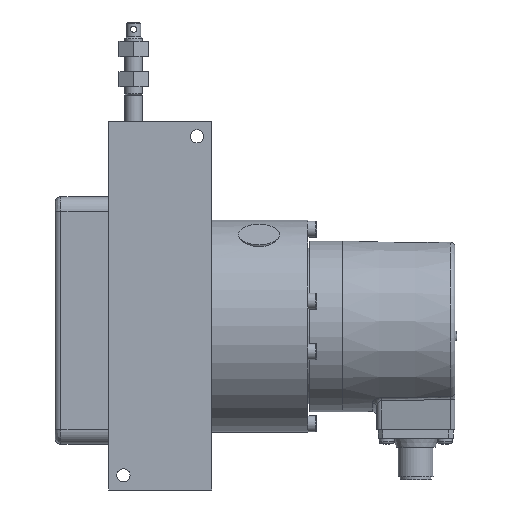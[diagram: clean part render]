
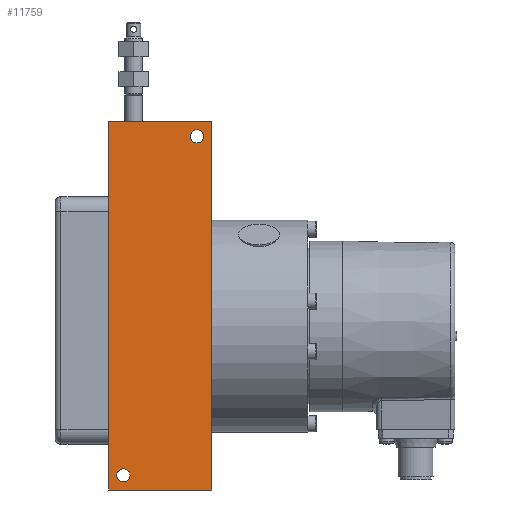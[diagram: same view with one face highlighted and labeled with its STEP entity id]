
A CAD part, front view. The second image highlights one B-rep face of the part: STEP entity #11759.
In plain terms, the highlighted planar face has unit normal (0, -1, 0).
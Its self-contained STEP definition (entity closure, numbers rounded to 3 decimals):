
#941 = VERTEX_POINT ( 'NONE', #12660 ) ;
#1302 = CIRCLE ( 'NONE', #11133, 2.25 ) ;
#1304 = EDGE_LOOP ( 'NONE', ( #10239, #13499, #15454, #16275 ) ) ;
#1880 = VERTEX_POINT ( 'NONE', #4811 ) ;
#2506 = VECTOR ( 'NONE', #6779, 1000. ) ;
#2808 = VERTEX_POINT ( 'NONE', #8015 ) ;
#3413 = CARTESIAN_POINT ( 'NONE',  ( 48.2, -45., 64.5 ) ) ;
#3589 = LINE ( 'NONE', #16654, #14209 ) ;
#3617 = VECTOR ( 'NONE', #5483, 1000. ) ;
#3825 = ORIENTED_EDGE ( 'NONE', *, *, #5727, .F. ) ;
#3887 = VECTOR ( 'NONE', #8641, 1000. ) ;
#3888 = DIRECTION ( 'NONE',  ( 0., -1., 0. ) ) ;
#4045 = LINE ( 'NONE', #12442, #3617 ) ;
#4217 = AXIS2_PLACEMENT_3D ( 'NONE', #15537, #14185, #5891 ) ;
#4476 = PLANE ( 'NONE',  #4217 ) ;
#4811 = CARTESIAN_POINT ( 'NONE',  ( 18.2, -45., 69.5 ) ) ;
#4819 = DIRECTION ( 'NONE',  ( -1., 0., 0. ) ) ;
#5483 = DIRECTION ( 'NONE',  ( 1., 0., 0. ) ) ;
#5727 = EDGE_CURVE ( 'NONE', #14484, #14484, #8884, .T. ) ;
#5891 = DIRECTION ( 'NONE',  ( 1., 0., 0. ) ) ;
#6779 = DIRECTION ( 'NONE',  ( -1., 0., 0. ) ) ;
#6843 = CARTESIAN_POINT ( 'NONE',  ( 20.95, -45., -50.5 ) ) ;
#7482 = CARTESIAN_POINT ( 'NONE',  ( 45.95, -45., 64.5 ) ) ;
#8015 = CARTESIAN_POINT ( 'NONE',  ( 53.2, -45., 69.5 ) ) ;
#8641 = DIRECTION ( 'NONE',  ( 0., 0., 1. ) ) ;
#8884 = CIRCLE ( 'NONE', #11600, 2.25 ) ;
#9022 = FACE_BOUND ( 'NONE', #14074, .T. ) ;
#9027 = LINE ( 'NONE', #17810, #2506 ) ;
#9187 = EDGE_LOOP ( 'NONE', ( #11831 ) ) ;
#9363 = EDGE_CURVE ( 'NONE', #1880, #2808, #4045, .T. ) ;
#9460 = FACE_BOUND ( 'NONE', #9187, .T. ) ;
#9966 = CARTESIAN_POINT ( 'NONE',  ( 18.2, -45., 69.5 ) ) ;
#10239 = ORIENTED_EDGE ( 'NONE', *, *, #13713, .F. ) ;
#10768 = VERTEX_POINT ( 'NONE', #6843 ) ;
#11133 = AXIS2_PLACEMENT_3D ( 'NONE', #12197, #3888, #13589 ) ;
#11286 = LINE ( 'NONE', #9966, #3887 ) ;
#11600 = AXIS2_PLACEMENT_3D ( 'NONE', #3413, #13133, #4819 ) ;
#11759 = ADVANCED_FACE ( 'NONE', ( #12695, #9022, #9460 ), #4476, .F. ) ;
#11831 = ORIENTED_EDGE ( 'NONE', *, *, #17775, .F. ) ;
#11947 = VERTEX_POINT ( 'NONE', #14618 ) ;
#12197 = CARTESIAN_POINT ( 'NONE',  ( 23.2, -45., -50.5 ) ) ;
#12442 = CARTESIAN_POINT ( 'NONE',  ( 204.362, -45., 69.5 ) ) ;
#12660 = CARTESIAN_POINT ( 'NONE',  ( 53.2, -45., -55.5 ) ) ;
#12695 = FACE_OUTER_BOUND ( 'NONE', #1304, .T. ) ;
#13133 = DIRECTION ( 'NONE',  ( 0., -1., 0. ) ) ;
#13499 = ORIENTED_EDGE ( 'NONE', *, *, #9363, .F. ) ;
#13589 = DIRECTION ( 'NONE',  ( -1., 0., 0. ) ) ;
#13592 = EDGE_CURVE ( 'NONE', #941, #11947, #9027, .T. ) ;
#13713 = EDGE_CURVE ( 'NONE', #2808, #941, #3589, .T. ) ;
#14074 = EDGE_LOOP ( 'NONE', ( #3825 ) ) ;
#14185 = DIRECTION ( 'NONE',  ( 0., 1., 0. ) ) ;
#14209 = VECTOR ( 'NONE', #15285, 1000. ) ;
#14484 = VERTEX_POINT ( 'NONE', #7482 ) ;
#14618 = CARTESIAN_POINT ( 'NONE',  ( 18.2, -45., -55.5 ) ) ;
#15285 = DIRECTION ( 'NONE',  ( 0., 0., -1. ) ) ;
#15454 = ORIENTED_EDGE ( 'NONE', *, *, #17559, .F. ) ;
#15537 = CARTESIAN_POINT ( 'NONE',  ( 204.362, -45., 69.5 ) ) ;
#16275 = ORIENTED_EDGE ( 'NONE', *, *, #13592, .F. ) ;
#16654 = CARTESIAN_POINT ( 'NONE',  ( 53.2, -45., 69.5 ) ) ;
#17559 = EDGE_CURVE ( 'NONE', #11947, #1880, #11286, .T. ) ;
#17775 = EDGE_CURVE ( 'NONE', #10768, #10768, #1302, .T. ) ;
#17810 = CARTESIAN_POINT ( 'NONE',  ( 204.362, -45., -55.5 ) ) ;
